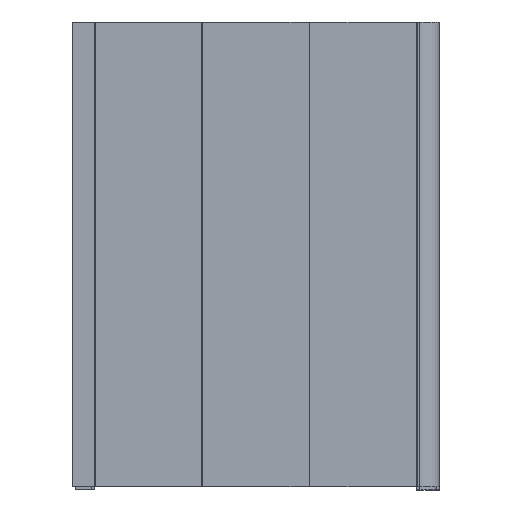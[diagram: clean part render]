
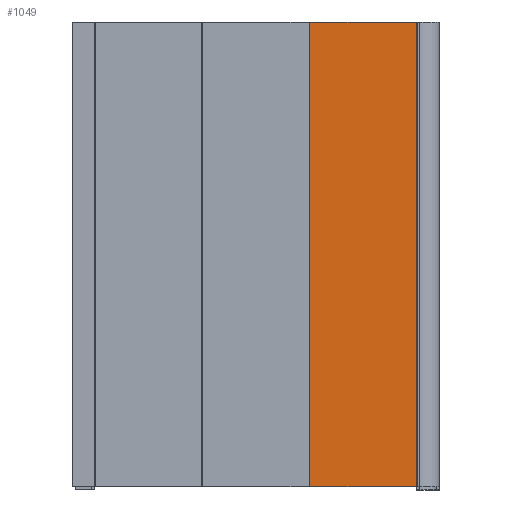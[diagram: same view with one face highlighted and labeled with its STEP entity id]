
A CAD part, left-side view. The second image highlights one B-rep face of the part: STEP entity #1049.
In plain terms, the highlighted planar face has unit normal (-1, 0, 0) as drawn and (1, 0, 0) by its records, which use the part's own axes.
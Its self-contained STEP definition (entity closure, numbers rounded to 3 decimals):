
#1049=ADVANCED_FACE('',(#1586),#8026,.T.);
#1586=FACE_OUTER_BOUND('',#2129,.T.);
#2129=EDGE_LOOP('',(#4047,#4048,#4049,#4050));
#4047=ORIENTED_EDGE('',*,*,#5506,.T.);
#4048=ORIENTED_EDGE('',*,*,#5507,.T.);
#4049=ORIENTED_EDGE('',*,*,#5508,.F.);
#4050=ORIENTED_EDGE('',*,*,#5504,.F.);
#5504=EDGE_CURVE('',#7465,#7466,#6572,.T.);
#5506=EDGE_CURVE('',#7465,#7467,#6574,.T.);
#5507=EDGE_CURVE('',#7467,#7468,#6575,.T.);
#5508=EDGE_CURVE('',#7466,#7468,#6576,.T.);
#6572=B_SPLINE_CURVE_WITH_KNOTS('',1,(#14293,#14294),.UNSPECIFIED.,.F.,
 .F.,(2,2),(0.,2600.),.UNSPECIFIED.);
#6574=B_SPLINE_CURVE_WITH_KNOTS('',1,(#14297,#14298),.UNSPECIFIED.,.F.,
 .F.,(2,2),(608.,1204.),.UNSPECIFIED.);
#6575=B_SPLINE_CURVE_WITH_KNOTS('',1,(#14299,#14300),.UNSPECIFIED.,.F.,
 .F.,(2,2),(0.,2600.),.UNSPECIFIED.);
#6576=B_SPLINE_CURVE_WITH_KNOTS('',1,(#14301,#14302),.UNSPECIFIED.,.F.,
 .F.,(2,2),(608.,1204.),.UNSPECIFIED.);
#7465=VERTEX_POINT('',#14279);
#7466=VERTEX_POINT('',#14280);
#7467=VERTEX_POINT('',#14281);
#7468=VERTEX_POINT('',#14282);
#8026=PLANE('',#10189);
#10189=AXIS2_PLACEMENT_3D('',#14271,#10976,$);
#10976=DIRECTION('',(1.,0.,0.));
#14271=CARTESIAN_POINT('',(-240.446,129.195,18.));
#14279=CARTESIAN_POINT('',(-240.446,129.195,18.));
#14280=CARTESIAN_POINT('',(-240.446,129.195,2618.));
#14281=CARTESIAN_POINT('',(-240.446,725.195,18.));
#14282=CARTESIAN_POINT('',(-240.446,725.195,2618.));
#14293=CARTESIAN_POINT('',(-240.446,129.195,18.));
#14294=CARTESIAN_POINT('',(-240.446,129.195,2618.));
#14297=CARTESIAN_POINT('',(-240.446,129.195,18.));
#14298=CARTESIAN_POINT('',(-240.446,725.195,18.));
#14299=CARTESIAN_POINT('',(-240.446,725.195,18.));
#14300=CARTESIAN_POINT('',(-240.446,725.195,2618.));
#14301=CARTESIAN_POINT('',(-240.446,129.195,2618.));
#14302=CARTESIAN_POINT('',(-240.446,725.195,2618.));
